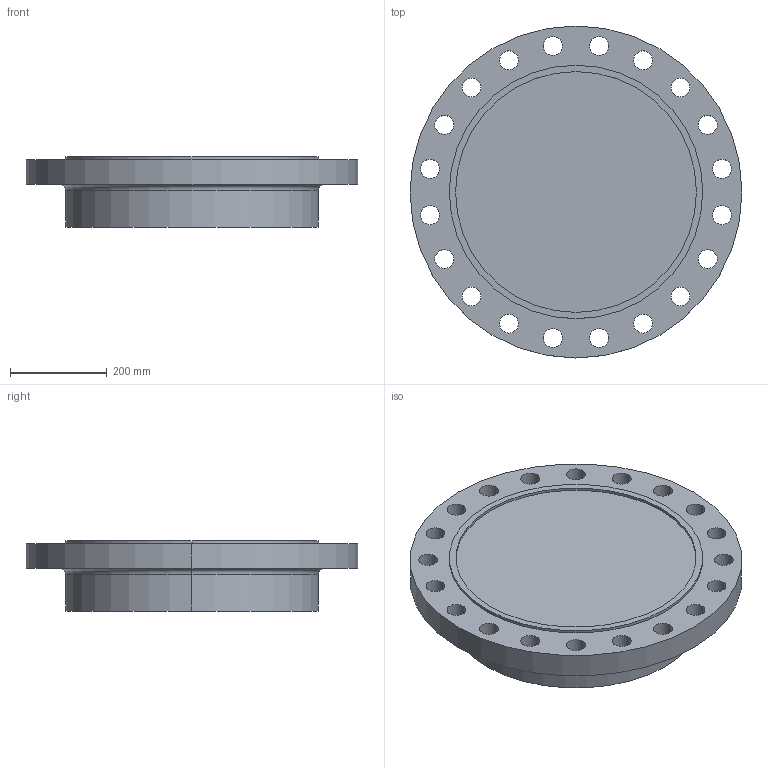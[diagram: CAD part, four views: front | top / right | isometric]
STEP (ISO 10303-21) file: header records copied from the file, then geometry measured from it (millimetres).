
FILE_DESCRIPTION (( 'STEP AP214' ), '1' );
FILE_NAME ('PN40 DN450 Type 21(i) - Type C Face.STEP', '2018-12-29T04:53:40', ( '' ), ( '' ), 'SwSTEP 2.0', 'SolidWorks 2019', '' );
FILE_SCHEMA (( 'AUTOMOTIVE_DESIGN' ));
Length unit declared in the file: millimetre
Products named in the file (1): PN40 DN450 Type 21(i) - Type C Face
Bounding box: 685 x 685 x 145 mm (x, y, z)
Volume: 36747285.4 mm3; surface area: 1079852.9 mm2
Topology: 1 solids, 1 shells, 55 faces, 148 edges, 98 vertices
Faces by surface type: cylinder 48, plane 5, torus 2
Entity records: 1900 total; most frequent: DIRECTION 360, CARTESIAN_POINT 302, ORIENTED_EDGE 296, AXIS2_PLACEMENT_3D 156, EDGE_CURVE 148, CIRCLE 100, VERTEX_POINT 98, EDGE_LOOP 98
